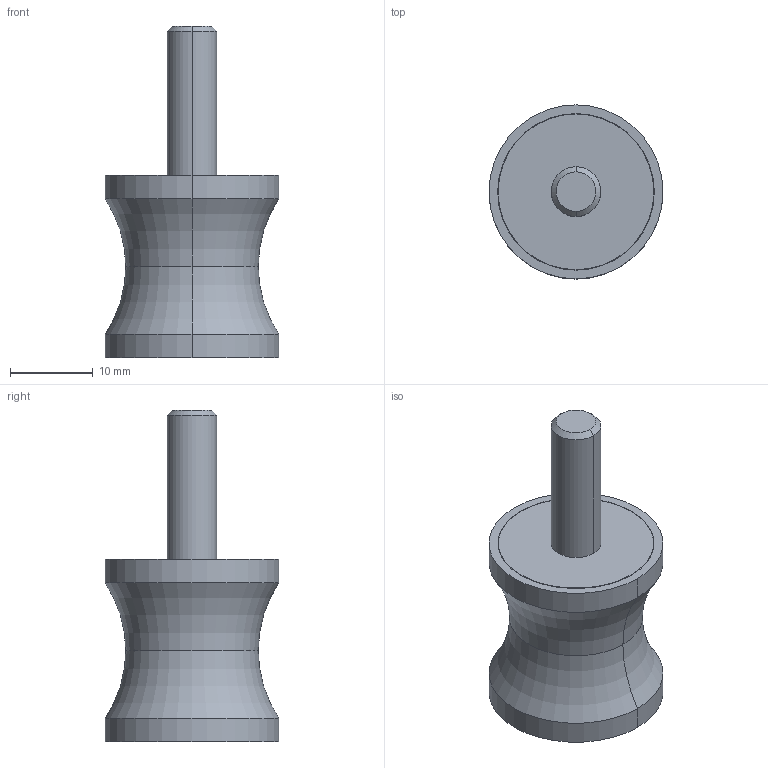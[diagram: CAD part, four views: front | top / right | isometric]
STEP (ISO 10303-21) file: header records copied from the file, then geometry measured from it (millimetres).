
FILE_DESCRIPTION (( 'STEP AP203' ), '1' );
FILE_NAME ('vdc2-211622m6.STEP', '2021-10-21T08:09:04', ( '' ), ( '' ), 'SwSTEP 2.0', 'SolidWorks 2020', '' );
FILE_SCHEMA (( 'CONFIG_CONTROL_DESIGN' ));
Length unit declared in the file: millimetre
Products named in the file (1): vdc2-211622m6
Bounding box: 21 x 21 x 40 mm (x, y, z)
Volume: 6295.9 mm3; surface area: 2482.4 mm2
Topology: 1 solids, 1 shells, 28 faces, 54 edges, 32 vertices
Faces by surface type: cylinder 12, cone 6, plane 6, torus 4
Entity records: 795 total; most frequent: DIRECTION 148, CARTESIAN_POINT 115, ORIENTED_EDGE 108, AXIS2_PLACEMENT_3D 65, EDGE_CURVE 54, CIRCLE 36, VERTEX_POINT 32, EDGE_LOOP 32
